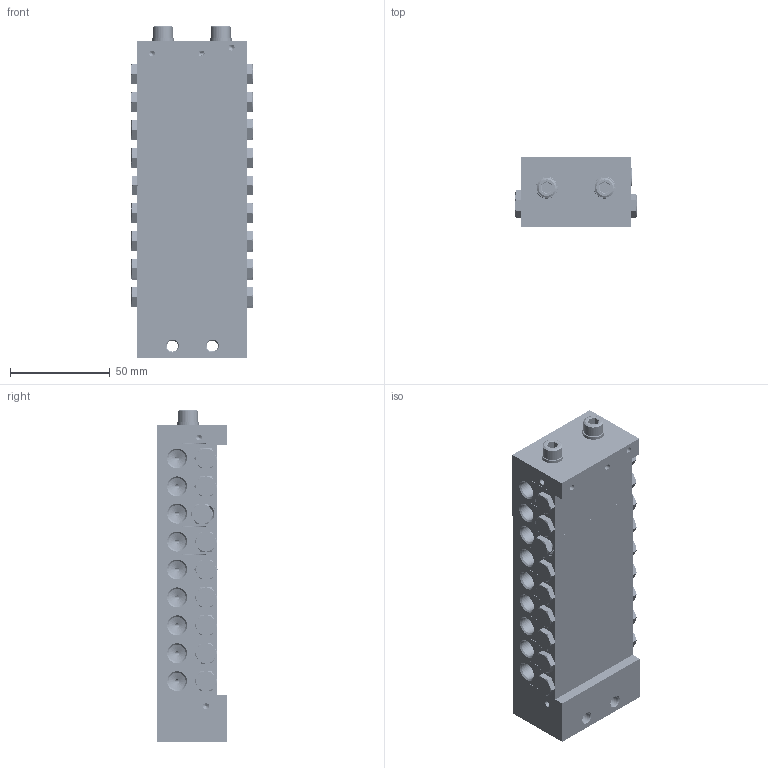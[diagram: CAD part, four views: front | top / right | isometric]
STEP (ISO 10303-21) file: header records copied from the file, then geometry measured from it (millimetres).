
FILE_DESCRIPTION (( 'STEP AP214' ), '1' );
FILE_NAME ('STW_XV_17_Auslässe.STEP', '2025-09-16T13:42:16', ( '' ), ( '' ), 'SwSTEP 2.0', 'SolidWorks 2022', '' );
FILE_SCHEMA (( 'AUTOMOTIVE_DESIGN' ));
Length unit declared in the file: millimetre
Products named in the file (11): M6X65_DIN_912; Verschlussstopfen_1_8; O_RING_3X1; STW_XV_Kolbenanschlag; STW_XV_17_Auslässe; STW_XV_Verbindungsstopen; U_Scheibe_6; STW_XV_MITTEL_1; STW_XV_END; STW_XV_ENGANG
Assembly tree (65 placements, depth 2):
  STW_XV_17_Auslässe
    STW_XV_ENGANG
    O_RING_3X1  x4
    STW_XV_MITTEL_1  x9
    STW_XV_END
    Verschlussstopfen_1_8  x18
    STW_XV_Kolbenanschlag  x18
    STW_XV_Verbindungsstopen  x9
    M6X65_DIN_912  x2
    U_Scheibe_6  x2
    Verschlussstopfen_1_8
Bounding box: 61.32 x 35.03 x 166.48 mm (x, y, z)
Volume: 248335.7 mm3; surface area: 124358.5 mm2
Topology: 65 solids, 65 shells, 2521 faces, 6629 edges, 4230 vertices
Faces by surface type: plane 1171, cylinder 707, cone 525, bspline 96, torus 22
Full cylindrical faces by diameter (mm): 2 x233, 3 x7, 5 x92, 5.5 x2, 5.9 x2, 6 x2, 6.2 x20, 6.4 x2, 6.5 x18, 7 x18, 8 x18, 8.4 x9, 8.6 x45, 9 x19, 9.7 x19, 9.73 x9, 10 x20, 11 x2, 15 x1
Entity records: 34847 total; most frequent: CARTESIAN_POINT 15310, ORIENTED_EDGE 2596, DIRECTION 2239, EDGE_CURVE 1298, VERTEX_POINT 919, EDGE_LOOP 845, AXIS2_PLACEMENT_3D 775, LINE 689
